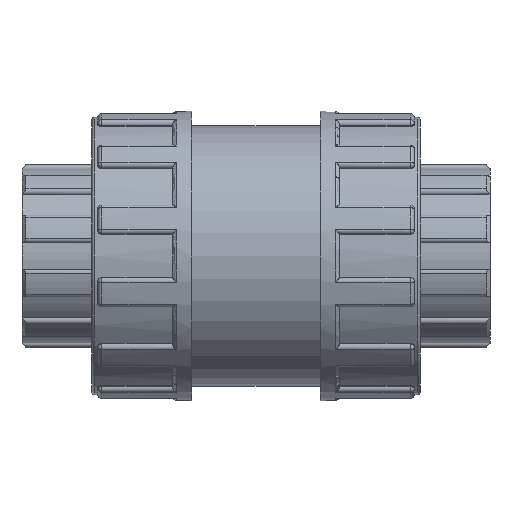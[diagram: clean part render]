
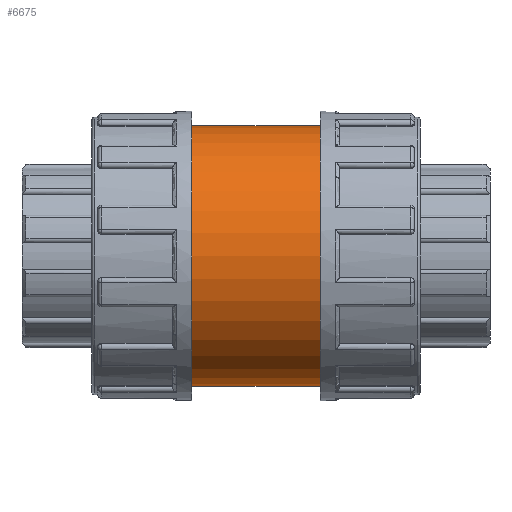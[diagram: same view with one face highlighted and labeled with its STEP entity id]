
A CAD part, front view. The second image highlights one B-rep face of the part: STEP entity #6675.
In plain terms, the highlighted cylindrical face has radius 24.75 mm (diameter 49.5 mm), a full revolution.
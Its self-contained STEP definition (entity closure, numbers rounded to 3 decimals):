
#185=FACE_BOUND('',#1099,.T.);
#186=FACE_BOUND('',#1100,.T.);
#670=FACE_OUTER_BOUND('',#1098,.T.);
#1098=EDGE_LOOP('',(#6073));
#1099=EDGE_LOOP('',(#6074));
#1100=EDGE_LOOP('',(#6075));
#1149=B_SPLINE_CURVE_WITH_KNOTS('',3,(#10735,#10736,#10737,#10738,#10739,
#10740,#10741,#10742,#10743,#10744,#10745,#10746,#10747,#10748,#10749,#10750,
#10751,#10752,#10753,#10754,#10755,#10756,#10757,#10758,#10759,#10760,#10761,
#10762,#10763,#10764,#10765,#10766,#10767,#10768),.UNSPECIFIED.,.T.,.F.,
(4,2,2,2,2,2,2,2,2,2,2,2,2,2,2,2,4),(0.,0.313,0.627,
0.94,1.254,1.567,1.88,2.194,
2.507,2.82,3.134,3.447,3.761,
4.074,4.387,4.701,5.014),
 .UNSPECIFIED.);
#2472=CIRCLE('',#7578,24.75);
#2473=CIRCLE('',#7580,24.75);
#2638=VERTEX_POINT('',#10734);
#3083=VERTEX_POINT('',#13353);
#3084=VERTEX_POINT('',#13356);
#3349=EDGE_CURVE('',#2638,#2638,#1149,.T.);
#4082=EDGE_CURVE('',#3083,#3083,#2472,.T.);
#4083=EDGE_CURVE('',#3084,#3084,#2473,.T.);
#6073=ORIENTED_EDGE('',*,*,#4082,.T.);
#6074=ORIENTED_EDGE('',*,*,#3349,.T.);
#6075=ORIENTED_EDGE('',*,*,#4083,.F.);
#6267=CYLINDRICAL_SURFACE('',#7579,24.75);
#6675=ADVANCED_FACE('',(#670,#185,#186),#6267,.T.);
#7578=AXIS2_PLACEMENT_3D('',#13354,#9749,#9750);
#7579=AXIS2_PLACEMENT_3D('',#13355,#9751,#9752);
#7580=AXIS2_PLACEMENT_3D('',#13357,#9753,#9754);
#9749=DIRECTION('center_axis',(1.,0.,0.));
#9750=DIRECTION('ref_axis',(0.,0.,-1.));
#9751=DIRECTION('center_axis',(1.,0.,0.));
#9752=DIRECTION('ref_axis',(0.,1.,0.));
#9753=DIRECTION('center_axis',(1.,0.,0.));
#9754=DIRECTION('ref_axis',(0.,0.,-1.));
#10734=CARTESIAN_POINT('',(0.,23.335,-8.25));
#10735=CARTESIAN_POINT('Ctrl Pts',(0.,23.335,
-8.25));
#10736=CARTESIAN_POINT('Ctrl Pts',(1.045,23.335,-8.25));
#10737=CARTESIAN_POINT('Ctrl Pts',(2.153,23.412,-8.04));
#10738=CARTESIAN_POINT('Ctrl Pts',(4.183,23.685,-7.195));
#10739=CARTESIAN_POINT('Ctrl Pts',(5.105,23.876,-6.562));
#10740=CARTESIAN_POINT('Ctrl Pts',(6.561,24.229,-5.106));
#10741=CARTESIAN_POINT('Ctrl Pts',(7.195,24.415,-4.183));
#10742=CARTESIAN_POINT('Ctrl Pts',(8.04,24.677,-2.153));
#10743=CARTESIAN_POINT('Ctrl Pts',(8.25,24.75,-1.044));
#10744=CARTESIAN_POINT('Ctrl Pts',(8.25,24.75,1.044));
#10745=CARTESIAN_POINT('Ctrl Pts',(8.04,24.677,2.153));
#10746=CARTESIAN_POINT('Ctrl Pts',(7.195,24.415,4.183));
#10747=CARTESIAN_POINT('Ctrl Pts',(6.561,24.229,5.106));
#10748=CARTESIAN_POINT('Ctrl Pts',(5.105,23.876,6.562));
#10749=CARTESIAN_POINT('Ctrl Pts',(4.183,23.685,7.195));
#10750=CARTESIAN_POINT('Ctrl Pts',(2.153,23.412,8.04));
#10751=CARTESIAN_POINT('Ctrl Pts',(1.045,23.335,8.25));
#10752=CARTESIAN_POINT('Ctrl Pts',(-1.045,23.335,8.25));
#10753=CARTESIAN_POINT('Ctrl Pts',(-2.153,23.412,8.04));
#10754=CARTESIAN_POINT('Ctrl Pts',(-4.183,23.685,7.195));
#10755=CARTESIAN_POINT('Ctrl Pts',(-5.105,23.876,6.562));
#10756=CARTESIAN_POINT('Ctrl Pts',(-6.561,24.229,5.106));
#10757=CARTESIAN_POINT('Ctrl Pts',(-7.195,24.415,4.183));
#10758=CARTESIAN_POINT('Ctrl Pts',(-8.04,24.677,2.153));
#10759=CARTESIAN_POINT('Ctrl Pts',(-8.25,24.75,1.044));
#10760=CARTESIAN_POINT('Ctrl Pts',(-8.25,24.75,-1.044));
#10761=CARTESIAN_POINT('Ctrl Pts',(-8.04,24.677,-2.153));
#10762=CARTESIAN_POINT('Ctrl Pts',(-7.195,24.415,-4.183));
#10763=CARTESIAN_POINT('Ctrl Pts',(-6.561,24.229,-5.106));
#10764=CARTESIAN_POINT('Ctrl Pts',(-5.105,23.876,-6.562));
#10765=CARTESIAN_POINT('Ctrl Pts',(-4.183,23.685,-7.195));
#10766=CARTESIAN_POINT('Ctrl Pts',(-2.153,23.412,-8.04));
#10767=CARTESIAN_POINT('Ctrl Pts',(-1.045,23.335,-8.25));
#10768=CARTESIAN_POINT('Ctrl Pts',(0.,23.335,-8.25));
#13353=CARTESIAN_POINT('',(-12.2,24.75,0.));
#13354=CARTESIAN_POINT('Origin',(-12.2,0.,0.));
#13355=CARTESIAN_POINT('Origin',(0.,0.,0.));
#13356=CARTESIAN_POINT('',(12.2,24.75,0.));
#13357=CARTESIAN_POINT('Origin',(12.2,0.,0.));
